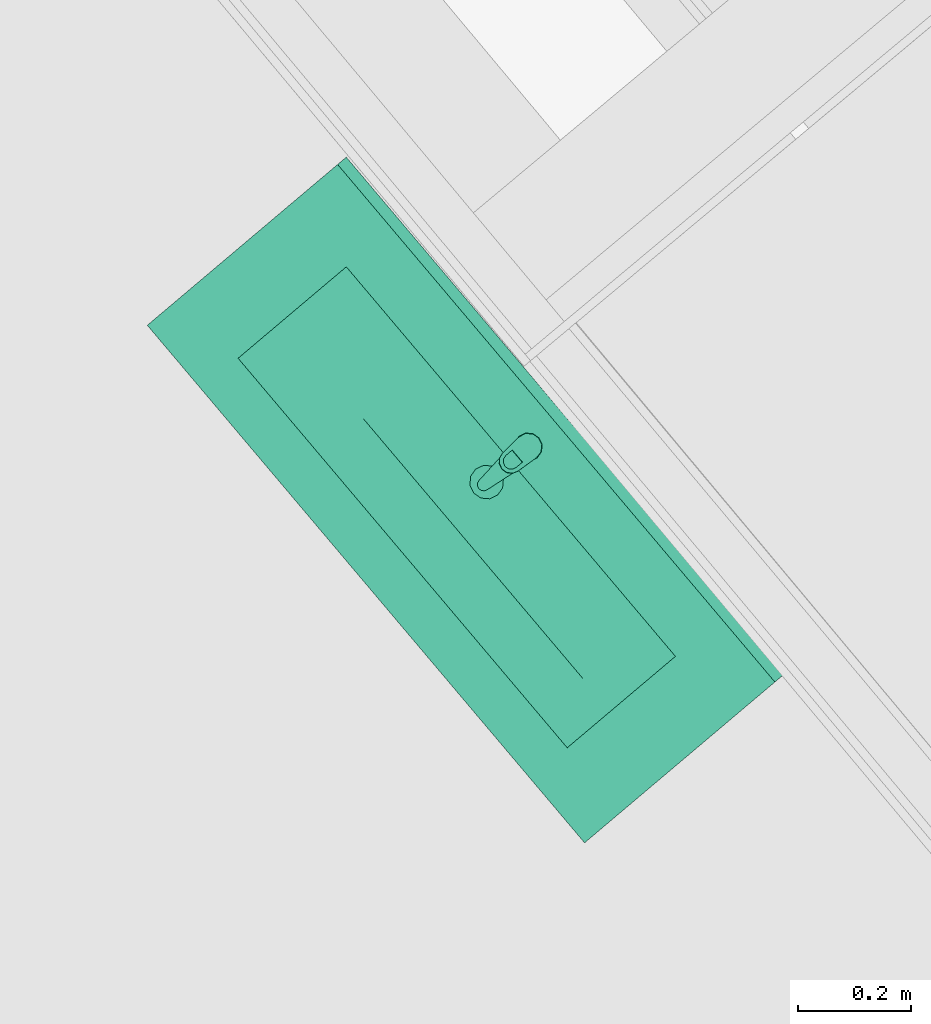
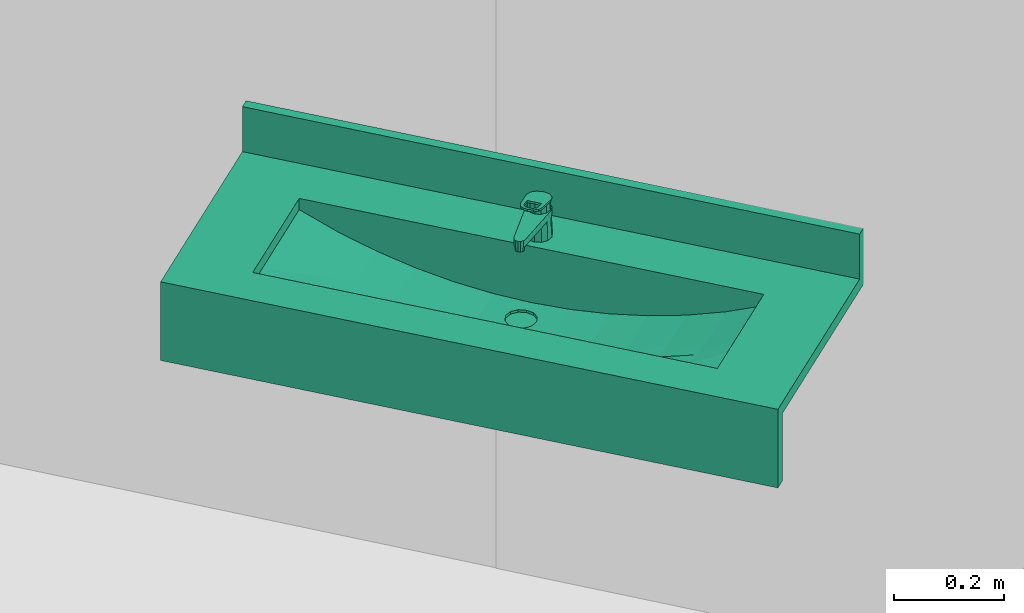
# One storey, part 52 of 58: 1 sanitary terminal.
"""IFC4 building model written with IfcOpenShell, lengths in metres."""

from ifc_helpers import new_model, entity, si_unit, converted_unit, derived_unit, direction, frame, origin_with_axes, place, context, subcontext, project, spatial, polygons, source, transform, mapped, type_object, element, save


model = new_model("IFC4")

# Units and contexts
model_context = context("Model", 3, precision=1e-05, world=origin_with_axes(), true_north=direction((0.0, 1.0)))
body_context = subcontext(model_context, "Body", "Model", "MODEL_VIEW")
ifc_project = project(units=[si_unit("LENGTHUNIT", "METRE"), si_unit("AREAUNIT", "SQUARE_METRE"), si_unit("VOLUMEUNIT", "CUBIC_METRE"), converted_unit("PLANEANGLEUNIT", "DEGREE", entity("IfcPlaneAngleMeasure", 0.0174532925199), si_unit("PLANEANGLEUNIT", "RADIAN"), dimensions=[0, 0, 0, 0, 0, 0, 0]), converted_unit("TIMEUNIT", "Year", entity("IfcTimeMeasure", 31556926.0), si_unit("TIMEUNIT", "SECOND"), dimensions=[0, 0, 1, 0, 0, 0, 0]), si_unit("MASSUNIT", "GRAM", prefix="KILO"), si_unit("THERMODYNAMICTEMPERATUREUNIT", "DEGREE_CELSIUS"), si_unit("LUMINOUSINTENSITYUNIT", "LUMEN"), si_unit("ENERGYUNIT", "JOULE", prefix="MEGA"), derived_unit("THERMALCONDUCTANCEUNIT", [(si_unit("POWERUNIT", "WATT"), 1), (si_unit("LENGTHUNIT", "METRE"), -1), (si_unit("THERMODYNAMICTEMPERATUREUNIT", "KELVIN"), -1)]), derived_unit("SPECIFICHEATCAPACITYUNIT", [(si_unit("ENERGYUNIT", "JOULE"), 1), (si_unit("MASSUNIT", "GRAM", prefix="KILO"), -1), (si_unit("THERMODYNAMICTEMPERATUREUNIT", "KELVIN"), -1)]), derived_unit("MASSDENSITYUNIT", [(si_unit("MASSUNIT", "GRAM", prefix="KILO"), 1), (si_unit("VOLUMEUNIT", "CUBIC_METRE"), -1)])], contexts=[model_context])

# Site, building, storey
site_placement = place(None, frame((-0.00153261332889, -0.00661245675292, 0.0), z_axis=(0.0, 0.0, 1.0), x_axis=(1.0, 0.0, 0.0)))
site = spatial("IfcSite", under=ifc_project, at=site_placement, Name="Site", CompositionType="ELEMENT")
building_placement = place(site_placement, origin_with_axes())
building = spatial("IfcBuilding", under=site, at=building_placement, Name="Building", CompositionType="ELEMENT")
storey_placement = place(building_placement, frame((0.0, 0.0, 5.7), z_axis=(0.0, 0.0, 1.0), x_axis=(1.0, 0.0, 0.0)))
storey = spatial("IfcBuildingStorey", under=building, at=storey_placement, Name="DG1", CompositionType="ELEMENT", Elevation=5.7)

# Sanitary terminal
sanitary_terminal_type = type_object("IfcSanitaryTerminalType", Name="Waschbecken mehrfach 26", PredefinedType="NOTDEFINED")
shared_shape = source(origin_with_axes(), body_context, "Body", "Tessellation", [
    polygons([(-0.597906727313, 0.0, 0.875), (0.597906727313, 0.0, 0.875), (0.597906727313, -0.459810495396, 0.875), (-0.597906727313, -0.459810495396, 0.875), (-0.45, -0.374905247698, 0.875), (0.45, -0.374905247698, 0.875), (0.45, -0.124905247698, 0.875), (-0.45, -0.124905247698, 0.875), (-0.597906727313, 0.0, 0.9), (0.597906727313, 0.0, 0.9), (0.597906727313, -0.459810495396, 0.9), (-0.597906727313, -0.459810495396, 0.9), (-0.45, -0.374905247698, 0.9), (0.45, -0.374905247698, 0.9), (0.45, -0.124905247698, 0.9), (-0.45, -0.124905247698, 0.9)], [[[1, 2, 3, 4], [5, 6, 7, 8]], [[1, 9, 10, 2]], [[2, 10, 11, 3]], [[3, 11, 12, 4]], [[4, 12, 9, 1]], [[13, 14, 6, 5]], [[14, 15, 7, 6]], [[15, 16, 8, 7]], [[16, 13, 5, 8]], [[11, 10, 9, 12], [13, 16, 15, 14]]], closed=True),
    polygons([(-0.597906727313, -0.02, 0.9), (0.597906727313, -0.02, 0.9), (0.597906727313, -0.02, 1.0), (-0.597906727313, -0.02, 1.0), (-0.597906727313, 0.0, 0.9), (0.597906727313, 0.0, 0.9), (0.597906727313, 0.0, 1.0), (-0.597906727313, 0.0, 1.0)], [[[1, 2, 3, 4]], [[1, 5, 6, 2]], [[2, 6, 7, 3]], [[4, 3, 7, 8]], [[5, 1, 4, 8]], [[6, 5, 8, 7]]], closed=True),
    polygons([(-0.597906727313, -0.459810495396, 0.725), (0.597906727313, -0.459810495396, 0.725), (0.597906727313, -0.459810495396, 0.875), (-0.597906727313, -0.459810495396, 0.875), (-0.597906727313, -0.434810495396, 0.725), (0.597906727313, -0.434810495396, 0.725), (0.597906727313, -0.434810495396, 0.875), (-0.597906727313, -0.434810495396, 0.875)], [[[1, 2, 3, 4]], [[1, 5, 6, 2]], [[2, 6, 7, 3]], [[4, 3, 7, 8]], [[5, 1, 4, 8]], [[6, 5, 8, 7]]], closed=True),
    polygons([(0.0, -0.210896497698, 0.775), (-0.015, -0.206877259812, 0.775530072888), (-0.0259807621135, -0.195896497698, 0.775918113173), (-0.03, -0.180896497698, 0.776060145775), (-0.0283946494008, -0.174905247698, 0.776003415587), (-0.075, -0.174905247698, 0.777650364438), (-0.075, -0.224905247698, 0.777650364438), (0.0, -0.224905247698, 0.775), (-0.015, -0.154915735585, 0.775530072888), (0.0, -0.150896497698, 0.775), (0.0, -0.124905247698, 0.775), (-0.075, -0.124905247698, 0.777650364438), (-0.0259807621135, -0.165896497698, 0.775918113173), (-0.15, -0.174905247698, 0.785641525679), (-0.15, -0.224905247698, 0.785641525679), (-0.075, -0.274905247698, 0.787304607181), (0.075, -0.174905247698, 0.777650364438), (0.0283946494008, -0.174905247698, 0.776003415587), (0.03, -0.180896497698, 0.776060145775), (0.0259807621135, -0.195896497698, 0.775918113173), (0.015, -0.206877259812, 0.775530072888), (0.075, -0.224905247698, 0.777650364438), (0.015, -0.154915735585, 0.775530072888), (0.0259807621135, -0.165896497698, 0.775918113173), (0.075, -0.124905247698, 0.777650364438), (0.225, -0.124905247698, 0.799096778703), (0.3, -0.124905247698, 0.818232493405), (0.375, -0.124905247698, 0.843376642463), (0.45, -0.124905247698, 0.875), (-0.45, -0.124905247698, 0.875), (-0.375, -0.124905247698, 0.843376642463), (-0.3, -0.124905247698, 0.818232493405), (-0.225, -0.124905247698, 0.799096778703), (-0.15, -0.124905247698, 0.785641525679), (0.15, -0.124905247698, 0.785641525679), (-0.225, -0.174905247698, 0.799096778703), (-0.225, -0.224905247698, 0.799096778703), (-0.15, -0.274905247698, 0.794561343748), (0.0, -0.274905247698, 0.784895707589), (0.15, -0.224905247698, 0.785641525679), (0.15, -0.174905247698, 0.785641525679), (0.3, -0.174905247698, 0.818232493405), (0.225, -0.174905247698, 0.799096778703), (0.375, -0.174905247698, 0.843376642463), (0.45, -0.174905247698, 0.875), (-0.375, -0.174905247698, 0.843376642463), (-0.45, -0.174905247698, 0.875), (-0.3, -0.174905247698, 0.818232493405), (-0.3, -0.224905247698, 0.818232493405), (-0.225, -0.274905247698, 0.80675793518), (-0.075, -0.324905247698, 0.828130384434), (-0.15, -0.324905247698, 0.832107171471), (0.075, -0.274905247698, 0.787304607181), (0.225, -0.224905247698, 0.799096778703), (0.3, -0.224905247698, 0.818232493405), (0.375, -0.224905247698, 0.843376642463), (0.45, -0.224905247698, 0.875), (0.45, -0.274905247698, 0.875), (0.45, -0.324905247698, 0.875), (0.45, -0.374905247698, 0.875), (-0.45, -0.274905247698, 0.875), (-0.45, -0.224905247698, 0.875), (-0.45, -0.374905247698, 0.875), (-0.45, -0.324905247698, 0.875), (-0.375, -0.224905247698, 0.843376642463), (-0.3, -0.274905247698, 0.824054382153), (-0.225, -0.324905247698, 0.838751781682), (0.0, -0.324905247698, 0.826806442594), (0.15, -0.274905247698, 0.794561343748), (0.225, -0.274905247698, 0.80675793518), (0.3, -0.274905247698, 0.824054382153), (0.375, -0.274905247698, 0.846689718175), (0.375, -0.324905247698, 0.860156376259), (0.375, -0.374905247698, 0.875), (-0.375, -0.324905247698, 0.860156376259), (-0.375, -0.274905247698, 0.846689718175), (-0.3, -0.324905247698, 0.848089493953), (-0.075, -0.374905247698, 0.875), (-0.15, -0.374905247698, 0.875), (-0.225, -0.374905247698, 0.875), (0.075, -0.324905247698, 0.828130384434), (-0.3, -0.374905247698, 0.875), (-0.375, -0.374905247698, 0.875), (0.3, -0.374905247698, 0.875), (0.225, -0.374905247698, 0.875), (0.15, -0.374905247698, 0.875), (0.075, -0.374905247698, 0.875), (0.0, -0.374905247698, 0.875), (0.15, -0.324905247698, 0.832107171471), (0.225, -0.324905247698, 0.838751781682), (0.3, -0.324905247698, 0.848089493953)], [[[1, 2, 3, 4, 5, 6, 7, 8]], [[9, 10, 11, 12, 6, 5, 13]], [[7, 6, 14, 15]], [[16, 8, 7]], [[17, 18, 19, 20, 21, 1, 8, 22]], [[10, 23, 24, 18, 17, 25, 11]], [[26, 27, 28, 29, 30, 31, 32, 33, 34, 12, 11, 25, 35]], [[6, 12, 34, 14]], [[15, 14, 36, 37]], [[38, 7, 15]], [[16, 39, 8]], [[38, 16, 7]], [[39, 22, 8]], [[40, 41, 17, 22]], [[41, 35, 25, 17]], [[42, 27, 26, 43]], [[44, 28, 27, 42]], [[45, 29, 28, 44]], [[46, 31, 30, 47]], [[48, 32, 31, 46]], [[36, 33, 32, 48]], [[14, 34, 33, 36]], [[43, 26, 35, 41]], [[37, 36, 48, 49]], [[50, 15, 37]], [[50, 38, 15]], [[51, 39, 16]], [[52, 16, 38]], [[39, 53, 22]], [[54, 43, 41, 40]], [[53, 40, 22]], [[55, 42, 43, 54]], [[56, 44, 42, 55]], [[57, 58, 59, 60, 29, 45]], [[57, 45, 44, 56]], [[61, 62, 47, 30, 63, 64]], [[65, 46, 47, 62]], [[49, 48, 46, 65]], [[66, 37, 49]], [[66, 50, 37]], [[67, 38, 50]], [[51, 68, 39]], [[52, 51, 16]], [[67, 52, 38]], [[68, 53, 39]], [[69, 54, 40]], [[53, 69, 40]], [[70, 55, 54]], [[71, 56, 55]], [[72, 58, 57]], [[73, 59, 58]], [[74, 60, 59]], [[72, 57, 56]], [[61, 65, 62]], [[63, 75, 64]], [[64, 76, 61]], [[76, 49, 65]], [[76, 66, 49]], [[77, 50, 66]], [[77, 67, 50]], [[78, 68, 51]], [[79, 51, 52]], [[80, 52, 67]], [[68, 81, 53]], [[69, 70, 54]], [[81, 69, 53]], [[70, 71, 55]], [[71, 72, 56]], [[73, 58, 72]], [[74, 59, 73]], [[80, 82, 83, 63, 60, 74, 84, 85, 86, 87, 88, 78, 79]], [[61, 76, 65]], [[63, 83, 75]], [[64, 75, 76]], [[75, 66, 76]], [[75, 77, 66]], [[82, 67, 77]], [[78, 88, 68]], [[79, 78, 51]], [[80, 79, 52]], [[82, 80, 67]], [[88, 81, 68]], [[89, 70, 69]], [[81, 89, 69]], [[90, 71, 70]], [[91, 72, 71]], [[91, 73, 72]], [[84, 74, 73]], [[83, 82, 77]], [[85, 84, 91]], [[86, 85, 90]], [[87, 86, 89]], [[88, 87, 81]], [[83, 77, 75]], [[89, 90, 70]], [[87, 89, 81]], [[90, 91, 71]], [[84, 73, 91]], [[85, 91, 90]], [[86, 90, 89]]], closed=False),
    polygons([(0.03, -0.180896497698, 0.776060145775), (0.0259807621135, -0.195896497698, 0.775918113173), (0.0259807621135, -0.195896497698, 0.77), (0.03, -0.180896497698, 0.77), (0.015, -0.206877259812, 0.775530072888), (0.015, -0.206877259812, 0.77), (0.0, -0.150896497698, 0.77), (0.015, -0.154915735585, 0.77), (0.0259807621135, -0.165896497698, 0.77), (0.0, -0.210896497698, 0.77), (-0.015, -0.206877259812, 0.77), (-0.0259807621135, -0.195896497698, 0.77), (-0.03, -0.180896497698, 0.77), (-0.0259807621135, -0.165896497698, 0.77), (-0.015, -0.154915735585, 0.77), (0.0259807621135, -0.165896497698, 0.775918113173), (0.0, -0.210896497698, 0.775), (0.0, -0.150896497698, 0.775), (0.015, -0.154915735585, 0.775530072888), (-0.015, -0.206877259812, 0.775530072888), (-0.0259807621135, -0.195896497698, 0.775918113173), (-0.03, -0.180896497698, 0.776060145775), (-0.0259807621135, -0.165896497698, 0.775918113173), (-0.015, -0.154915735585, 0.775530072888)], [[[1, 2, 3, 4]], [[2, 5, 6, 3]], [[7, 8, 9, 4, 3, 6, 10, 11, 12, 13, 14, 15]], [[16, 1, 4, 9]], [[5, 17, 10, 6]], [[18, 19, 8, 7]], [[19, 16, 9, 8]], [[17, 20, 11, 10]], [[20, 21, 12, 11]], [[21, 22, 13, 12]], [[22, 23, 14, 13]], [[23, 24, 15, 14]], [[24, 18, 7, 15]]], closed=False),
    polygons([(0.0125, -0.0632546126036, 0.9), (0.0, -0.0599052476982, 0.9), (0.0, -0.0637033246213, 0.975961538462), (0.0105873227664, -0.0665674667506, 0.976507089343), (0.0216506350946, -0.0724052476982, 0.9), (0.025, -0.0849052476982, 0.9), (0.0216506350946, -0.0974052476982, 0.9), (0.0125, -0.106555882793, 0.9), (0.0, -0.109905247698, 0.9), (-0.0125, -0.106555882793, 0.9), (-0.0216506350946, -0.0974052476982, 0.9), (-0.025, -0.0849052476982, 0.9), (-0.0216506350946, -0.0724052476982, 0.9), (-0.0125, -0.0632546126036, 0.9), (-0.0105873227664, -0.0665674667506, 0.976507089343), (-0.0182735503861, -0.0743550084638, 0.977990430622), (-0.021, -0.0849052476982, 0.98), (-0.0181003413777, -0.095355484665, 0.981990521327), (-0.0104141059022, -0.102943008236, 0.983435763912), (0.0, -0.105707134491, 0.983962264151), (0.0104141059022, -0.102943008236, 0.983435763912), (0.0181003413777, -0.095355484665, 0.981990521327), (0.021, -0.0849052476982, 0.98), (0.0182735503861, -0.0743550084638, 0.977990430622)], [[[1, 2, 3, 4]], [[1, 5, 6, 7, 8, 9, 10, 11, 12, 13, 14, 2]], [[2, 14, 15, 3]], [[4, 3, 15, 16, 17, 18, 19, 20, 21, 22, 23, 24]], [[5, 1, 4, 24]], [[6, 5, 24, 23]], [[7, 6, 23, 22]], [[8, 7, 22, 21]], [[9, 8, 21, 20]], [[10, 9, 20, 19]], [[11, 10, 19, 18]], [[12, 11, 18, 17]], [[13, 12, 17, 16]], [[14, 13, 16, 15]]], closed=True),
    polygons([(0.009, -0.187905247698, 0.935), (0.00779422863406, -0.183405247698, 0.935), (0.00779422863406, -0.183405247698, 0.945), (0.009, -0.187905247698, 0.945), (0.00779422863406, -0.192405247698, 0.935), (0.0045, -0.195699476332, 0.935), (0.0, -0.196905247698, 0.935), (-0.0045, -0.195699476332, 0.935), (-0.00779422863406, -0.192405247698, 0.935), (-0.009, -0.187905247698, 0.935), (-0.00779422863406, -0.183405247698, 0.935), (-0.0045, -0.180111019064, 0.935), (0.0, -0.178905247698, 0.935), (0.0045, -0.180111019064, 0.935), (0.0045, -0.180111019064, 0.945), (0.0, -0.178905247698, 0.945), (-0.0045, -0.180111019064, 0.945), (-0.00779422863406, -0.183405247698, 0.945), (-0.009, -0.187905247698, 0.945), (-0.00779422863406, -0.192405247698, 0.945), (-0.0045, -0.195699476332, 0.945), (0.0, -0.196905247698, 0.945), (0.0045, -0.195699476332, 0.945), (0.00779422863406, -0.192405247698, 0.945)], [[[1, 2, 3, 4]], [[1, 5, 6, 7, 8, 9, 10, 11, 12, 13, 14, 2]], [[2, 14, 15, 3]], [[4, 3, 15, 16, 17, 18, 19, 20, 21, 22, 23, 24]], [[5, 1, 4, 24]], [[6, 5, 24, 23]], [[7, 6, 23, 22]], [[8, 7, 22, 21]], [[9, 8, 21, 20]], [[10, 9, 20, 19]], [[11, 10, 19, 18]], [[12, 11, 18, 17]], [[13, 12, 17, 16]], [[14, 13, 16, 15]]], closed=True),
    polygons([(-0.0128717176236, -0.0646489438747, 0.96), (-0.021727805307, -0.0747120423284, 0.96), (-0.0238054, -0.0879551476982, 0.96), (-0.010911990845, -0.189293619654, 0.96), (-0.00902887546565, -0.194188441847, 0.96), (-0.00509332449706, -0.197654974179, 0.96), (3.62679860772e-08, -0.198905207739, 0.96), (0.00509338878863, -0.197654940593, 0.96), (0.00902891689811, -0.194188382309, 0.96), (0.010912, -0.189293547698, 0.96), (0.0238053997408, -0.0879551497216, 0.96), (0.0217278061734, -0.0747120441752, 0.96), (0.0128717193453, -0.0646489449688, 0.96), (1.01998896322e-09, -0.0609052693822, 0.96), (0.011, -0.0658526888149, 0.96), (0.0190525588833, -0.0739052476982, 0.96), (0.022, -0.0849052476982, 0.96), (0.0190525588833, -0.0959052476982, 0.96), (0.011, -0.103957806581, 0.96), (0.0, -0.106905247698, 0.96), (-0.011, -0.103957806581, 0.96), (-0.0190525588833, -0.0959052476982, 0.96), (-0.022, -0.0849052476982, 0.96), (-0.0190525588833, -0.0739052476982, 0.96), (-0.011, -0.0658526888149, 0.96), (0.0, -0.0629052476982, 0.96), (-0.021727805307, -0.0747120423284, 0.945), (-0.0128717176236, -0.0646489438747, 0.945), (-0.0238054, -0.0879551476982, 0.945), (-0.010911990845, -0.189293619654, 0.945), (-0.00902887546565, -0.194188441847, 0.945), (-0.00509332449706, -0.197654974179, 0.945), (3.62679860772e-08, -0.198905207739, 0.945), (0.00509338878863, -0.197654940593, 0.945), (0.00902891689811, -0.194188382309, 0.945), (0.010912, -0.189293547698, 0.945), (0.0238053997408, -0.0879551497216, 0.945), (0.0217278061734, -0.0747120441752, 0.945), (0.0128717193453, -0.0646489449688, 0.945), (1.01998896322e-09, -0.0609052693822, 0.945), (0.011375, -0.0652031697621, 0.945), (0.0197020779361, -0.0735302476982, 0.945), (0.02275, -0.0849052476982, 0.945), (0.0197020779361, -0.0962802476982, 0.945), (0.011375, -0.104607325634, 0.945), (0.0, -0.107655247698, 0.945), (-0.011375, -0.104607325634, 0.945), (-0.0197020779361, -0.0962802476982, 0.945), (-0.02275, -0.0849052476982, 0.945), (-0.0197020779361, -0.0735302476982, 0.945), (-0.011375, -0.0652031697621, 0.945), (0.0, -0.0621552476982, 0.945)], [[[1, 2, 3, 4, 5, 6, 7, 8, 9, 10, 11, 12, 13, 14], [15, 16, 17, 18, 19, 20, 21, 22, 23, 24, 25, 26]], [[27, 2, 1, 28]], [[29, 3, 2, 27]], [[30, 4, 3, 29]], [[31, 5, 4, 30]], [[32, 6, 5, 31]], [[33, 7, 6, 32]], [[34, 8, 7, 33]], [[35, 9, 8, 34]], [[36, 10, 9, 35]], [[37, 11, 10, 36]], [[38, 12, 11, 37]], [[39, 13, 12, 38]], [[40, 14, 13, 39]], [[28, 1, 14, 40]], [[41, 42, 16, 15]], [[42, 43, 17, 16]], [[43, 44, 18, 17]], [[44, 45, 19, 18]], [[45, 46, 20, 19]], [[21, 20, 46, 47]], [[22, 21, 47, 48]], [[23, 22, 48, 49]], [[24, 23, 49, 50]], [[25, 24, 50, 51]], [[51, 52, 26, 25]], [[52, 41, 15, 26]], [[33, 32, 31, 30, 29, 27, 28, 40, 39, 38, 37, 36, 35, 34], [45, 44, 43, 42, 41, 52, 51, 50, 49, 48, 47, 46]]], closed=True),
    polygons([(0.023893, -0.0865978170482, 0.980322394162), (0.0212964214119, -0.0741305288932, 0.977947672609), (0.0212964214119, -0.0733820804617, 0.981877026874), (0.023893, -0.0858493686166, 0.984251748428), (0.0209459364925, -0.126741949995, 0.987968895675), (0.0176631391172, -0.13641961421, 0.989812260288), (0.0100614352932, -0.14336899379, 0.991135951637), (-4.42652908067e-07, -0.145890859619, 0.991616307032), (-0.0100622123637, -0.143368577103, 0.991135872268), (-0.0176636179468, -0.136418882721, 0.989812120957), (-0.020946, -0.126741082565, 0.987968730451), (-0.023893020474, -0.0865975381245, 0.980322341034), (-0.0212962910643, -0.0741302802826, 0.977947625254), (-0.0124716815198, -0.0648140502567, 0.976173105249), (1.42337785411e-07, -0.0613732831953, 0.975517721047), (0.0124719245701, -0.0648141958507, 0.976173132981), (0.014, -0.110446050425, 0.984864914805), (-0.014, -0.110446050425, 0.984864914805), (-0.014, -0.125261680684, 0.987686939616), (-0.012124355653, -0.132138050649, 0.988996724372), (-0.007, -0.137171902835, 0.989955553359), (0.0, -0.139014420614, 0.990306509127), (0.007, -0.137171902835, 0.989955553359), (0.012124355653, -0.132138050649, 0.988996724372), (0.014, -0.125261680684, 0.987686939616), (0.0124719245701, -0.0640657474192, 0.980102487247), (1.42337785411e-07, -0.0606248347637, 0.979447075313), (-0.0124716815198, -0.0640656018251, 0.980102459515), (-0.0212962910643, -0.073381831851, 0.98187697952), (-0.023893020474, -0.085849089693, 0.984251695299), (-0.020946, -0.125992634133, 0.991898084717), (-0.0176636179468, -0.13567043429, 0.993741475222), (-0.0100622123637, -0.142620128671, 0.995065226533), (-4.42652908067e-07, -0.145142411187, 0.995545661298), (0.0100614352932, -0.142620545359, 0.995065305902), (0.0176631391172, -0.135671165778, 0.993741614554), (0.0209459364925, -0.125993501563, 0.991898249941), (0.014, -0.109697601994, 0.988794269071), (0.014, -0.124513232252, 0.991616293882), (0.012124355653, -0.131389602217, 0.992926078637), (0.007, -0.136423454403, 0.993884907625), (0.0, -0.138265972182, 0.994235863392), (-0.007, -0.136423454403, 0.993884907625), (-0.012124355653, -0.131389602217, 0.992926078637), (-0.014, -0.124513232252, 0.991616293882), (-0.014, -0.109697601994, 0.988794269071)], [[[1, 2, 3, 4]], [[1, 5, 6, 7, 8, 9, 10, 11, 12, 13, 14, 15, 16, 2], [17, 18, 19, 20, 21, 22, 23, 24, 25]], [[2, 16, 26, 3]], [[4, 3, 26, 27, 28, 29, 30, 31, 32, 33, 34, 35, 36, 37], [38, 39, 40, 41, 42, 43, 44, 45, 46]], [[5, 1, 4, 37]], [[6, 5, 37, 36]], [[7, 6, 36, 35]], [[8, 7, 35, 34]], [[9, 8, 34, 33]], [[10, 9, 33, 32]], [[11, 10, 32, 31]], [[12, 11, 31, 30]], [[13, 12, 30, 29]], [[14, 13, 29, 28]], [[15, 14, 28, 27]], [[16, 15, 27, 26]], [[18, 17, 38, 46]], [[19, 18, 46, 45]], [[20, 19, 45, 44]], [[21, 20, 44, 43]], [[22, 21, 43, 42]], [[23, 22, 42, 41]], [[24, 23, 41, 40]], [[25, 24, 40, 39]], [[17, 25, 39, 38]]], closed=True),
])
sanitary_terminal_placement = place(storey_placement, frame((1.68758457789, 20.7054443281, 0.145), z_axis=(0.0, 0.0, 1.0), x_axis=(0.64539838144, -0.763846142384, 0.0)))
element("IfcSanitaryTerminal", 1, at=sanitary_terminal_placement, inside=storey, type_object=sanitary_terminal_type, Name="Objekt-0009", PredefinedType="NOTDEFINED", context=body_context, shape_type="MappedRepresentation", body=[
    mapped(shared_shape, transform((0.0, 0.0, 0.0))),
])

save(model, "model.ifc")
